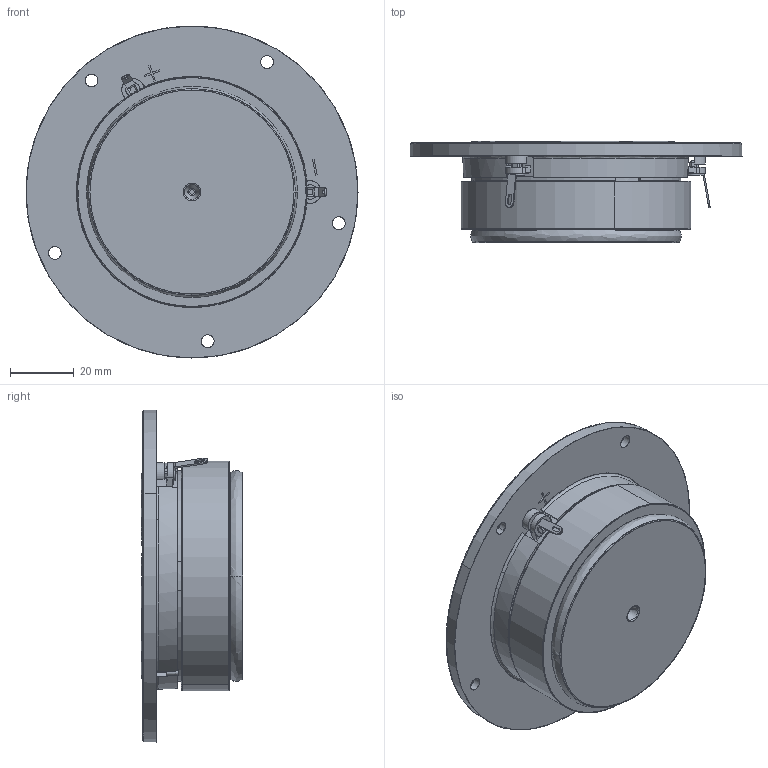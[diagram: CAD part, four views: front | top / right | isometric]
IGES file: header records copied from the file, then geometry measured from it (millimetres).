
Start section: SolidWorks IGES file using analytic representation for surfaces
Global section: file name: W:\TT\WEB 3D enheder\WEB D2606_920000\D2606-920000.IGS; native system: SolidWorks 2019; preprocessor: SolidWorks 2019; author: mhn; date: 201022.080413; units: millimetre
Bounding box: 104 x 31.74 x 104 mm (x, y, z)
Surface area: 29084.1 mm2 (no closed solid volume)
Topology: 0 solids, 0 shells, 398 faces, 5174 edges, 5159 vertices
Faces by surface type: revolution 209, bspline 189
